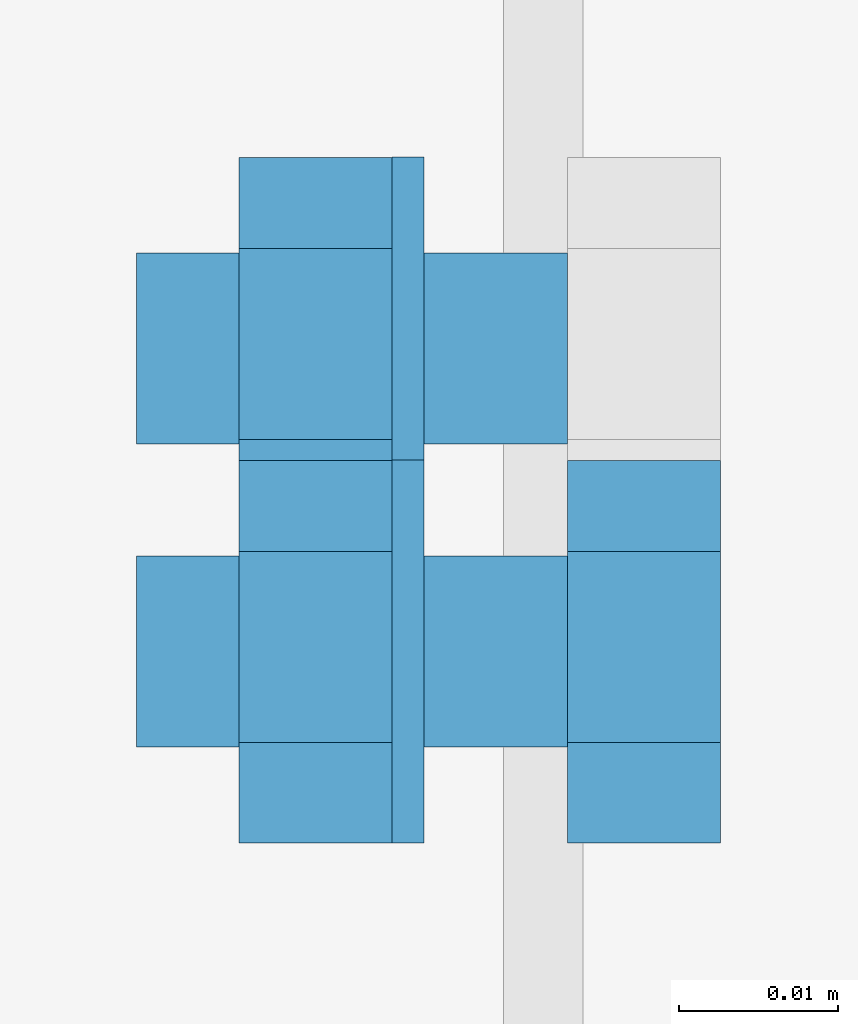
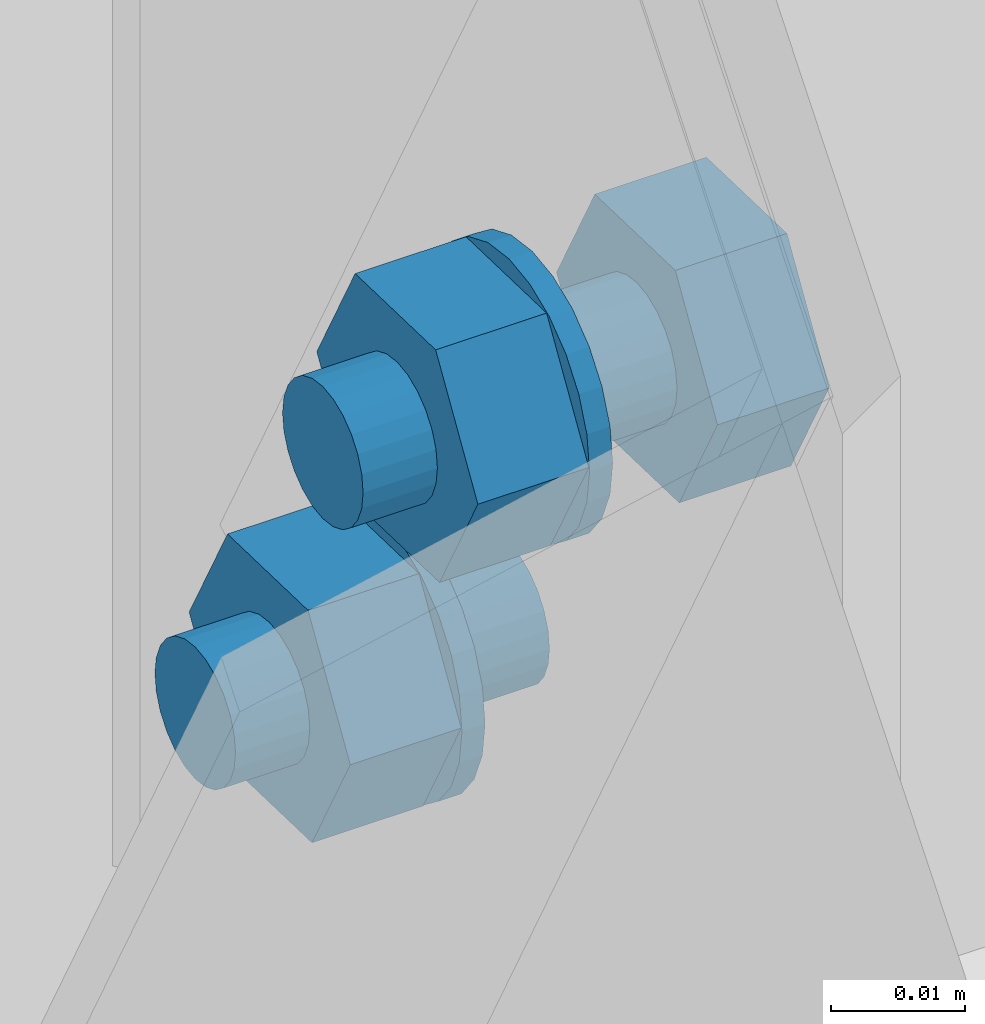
# One storey, part 28 of 29: 7 mechanical fasteners.
"""IFC4 building model written with IfcOpenShell, lengths in metres."""

from ifc_helpers import new_model, si_unit, frame, origin_with_axes, place, context, project, spatial, polyline, outline, extrude, type_object, element, save


model = new_model("IFC4")

# Units and contexts
model_context = context("Model", 3, precision=1e-05, world=origin_with_axes())
ifc_project = project(units=[si_unit("LENGTHUNIT", "METRE"), si_unit("AREAUNIT", "SQUARE_METRE"), si_unit("VOLUMEUNIT", "CUBIC_METRE"), si_unit("MASSUNIT", "GRAM", prefix="KILO"), si_unit("TIMEUNIT", "SECOND"), si_unit("PLANEANGLEUNIT", "RADIAN"), si_unit("SOLIDANGLEUNIT", "STERADIAN"), si_unit("THERMODYNAMICTEMPERATUREUNIT", "DEGREE_CELSIUS")], contexts=[model_context])

# Site, building, storey
placement_1 = place(None, origin_with_axes())
site = spatial("IfcSite", under=ifc_project, at=placement_1, Name="Italia", CompositionType="ELEMENT")
building = spatial("IfcBuilding", under=site, at=placement_1, Name="Capannone", CompositionType="ELEMENT")
storey = spatial("IfcBuildingStorey", under=building, at=placement_1, Name="Storey 0", CompositionType="ELEMENT", Elevation=0.0)

# Mechanical fasteners
mechanical_fastener_type_1 = type_object("IfcMechanicalFastenerType", Name="Collegamento 0012_0110", PredefinedType="BOLT")
placement_2 = place(placement_1, origin_with_axes())
mechanical_fastener_1_placement = place(placement_2, origin_with_axes())
element("IfcMechanicalFastener", 1, at=mechanical_fastener_1_placement, inside=storey, type_object=mechanical_fastener_type_1, Name="Collegamento 0012_0110", NominalDiameter=0.012, context=model_context, shape_type="SweptSolid", body=[
    extrude(outline(polyline([(0.0, 0.0), (-0.000204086, -0.00155292), (-0.000802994, -0.003), (-0.00175667, -0.00424264), (-0.00299931, -0.00519615), (-0.00444698, -0.00579555), (-0.00599957, -0.006), (-0.00755215, -0.00579555), (-0.00899982, -0.00519615), (-0.0102425, -0.00424264), (-0.0111961, -0.003), (-0.011795, -0.00155292), (-0.0119991, 0.0), (-0.011795, 0.00155291), (-0.0111961, 0.00300001), (-0.0102425, 0.00424264), (-0.00899982, 0.00519615), (-0.00755215, 0.00579555), (-0.00599957, 0.006), (-0.00444698, 0.00579555), (-0.00299931, 0.00519615), (-0.00175667, 0.00424264), (-0.000802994, 0.00300001), (-0.000204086, 0.00155291), (0.0, 0.0)])), frame((13.981, 14.959, 0.126354), z_axis=(1.0, 0.0, 0.0), x_axis=(0.0, 1.0, 0.0)), (0.0, 0.0, 1.0), 0.0269995),
])
mechanical_fastener_type_2 = type_object("IfcMechanicalFastenerType", Name="Collegamento 0012_0110", PredefinedType="BOLT")
mechanical_fastener_2_placement = place(placement_2, origin_with_axes())
element("IfcMechanicalFastener", 2, at=mechanical_fastener_2_placement, inside=storey, type_object=mechanical_fastener_type_2, Name="Collegamento 0012_0110", NominalDiameter=0.0119997, context=model_context, shape_type="SweptSolid", body=[
    extrude(outline(polyline([(0.0, 0.0), (0.00570583, -0.0105565), (0.0177011, -0.010893), (0.0239906, -0.000673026), (0.0182838, 0.00988345), (0.00628853, 0.01022), (0.0, 0.0)])), frame((13.9874, 14.941, 0.12669), z_axis=(1.0, 0.0, 0.0), x_axis=(0.0, 1.0, 0.0)), (0.0, 0.0, 1.0), 0.00959969),
])
mechanical_fastener_type_3 = type_object("IfcMechanicalFastenerType", Name="Collegamento 0012_0110", PredefinedType="BOLT")
mechanical_fastener_3_placement = place(placement_2, origin_with_axes())
element("IfcMechanicalFastener", 3, at=mechanical_fastener_3_placement, inside=storey, type_object=mechanical_fastener_type_3, Name="Collegamento 0012_0110", NominalDiameter=0.024, context=model_context, shape_type="SweptSolid", body=[
    extrude(outline(polyline([(0.0, 0.0), (-0.000409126, -0.00310583), (-0.00160789, -0.006), (-0.00351524, -0.00848528), (-0.00600052, -0.0103923), (-0.00889397, -0.0115911), (-0.0120001, -0.012), (-0.0151062, -0.0115911), (-0.0179996, -0.0103923), (-0.0204849, -0.00848528), (-0.0223923, -0.006), (-0.023591, -0.00310583), (-0.0240002, 0.0), (-0.023591, 0.00310583), (-0.0223923, 0.006), (-0.0204849, 0.00848529), (-0.0179996, 0.0103923), (-0.0151062, 0.0115911), (-0.0120001, 0.012), (-0.00889397, 0.0115911), (-0.00600052, 0.0103923), (-0.00351524, 0.00848527), (-0.00160789, 0.006), (-0.000409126, 0.00310582), (0.0, 0.0)])), frame((13.997, 14.965, 0.126354), z_axis=(1.0, 0.0, 0.0), x_axis=(0.0, 1.0, 0.0)), (0.0, 0.0, 1.0), 0.00199986),
])
mechanical_fastener_type_4 = type_object("IfcMechanicalFastenerType", Name="Collegamento 0012_0110", PredefinedType="BOLT")
mechanical_fastener_4_placement = place(placement_2, origin_with_axes())
element("IfcMechanicalFastener", 4, at=mechanical_fastener_4_placement, inside=storey, type_object=mechanical_fastener_type_4, Name="Collegamento 0012_0110", NominalDiameter=0.0119997, context=model_context, shape_type="SweptSolid", body=[
    extrude(outline(polyline([(0.0, 0.0), (0.00570679, -0.0105565), (0.0177021, -0.010893), (0.0239906, -0.000673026), (0.0182848, 0.00988345), (0.00628948, 0.0102199), (0.0, 0.0)])), frame((14.008, 14.922, 0.161879), z_axis=(1.0, 0.0, 0.0), x_axis=(0.0, 1.0, 0.0)), (0.0, 0.0, 1.0), 0.00960064),
])
mechanical_fastener_type_5 = type_object("IfcMechanicalFastenerType", Name="Collegamento 0012_0110", PredefinedType="BOLT")
mechanical_fastener_5_placement = place(placement_2, origin_with_axes())
element("IfcMechanicalFastener", 5, at=mechanical_fastener_5_placement, inside=storey, type_object=mechanical_fastener_type_5, Name="Collegamento 0012_0110", NominalDiameter=0.012, context=model_context, shape_type="SweptSolid", body=[
    extrude(outline(polyline([(0.0, 0.0), (-0.000204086, -0.00155291), (-0.000802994, -0.00300001), (-0.00175667, -0.00424264), (-0.00299931, -0.00519615), (-0.00444698, -0.00579555), (-0.00599957, -0.006), (-0.00755215, -0.00579555), (-0.00899982, -0.00519615), (-0.0102425, -0.00424264), (-0.0111961, -0.00300001), (-0.011795, -0.00155291), (-0.0119991, 0.0), (-0.011795, 0.00155291), (-0.0111961, 0.00300001), (-0.0102425, 0.00424264), (-0.00899982, 0.00519615), (-0.00755215, 0.00579555), (-0.00599957, 0.006), (-0.00444698, 0.00579555), (-0.00299931, 0.00519615), (-0.00175667, 0.00424264), (-0.000802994, 0.00300001), (-0.000204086, 0.00155291), (0.0, 0.0)])), frame((13.981, 14.94, 0.161542), z_axis=(1.0, 0.0, 0.0), x_axis=(0.0, 1.0, 0.0)), (0.0, 0.0, 1.0), 0.0269995),
])
mechanical_fastener_type_6 = type_object("IfcMechanicalFastenerType", Name="Collegamento 0012_0110", PredefinedType="BOLT")
mechanical_fastener_6_placement = place(placement_2, origin_with_axes())
element("IfcMechanicalFastener", 6, at=mechanical_fastener_6_placement, inside=storey, type_object=mechanical_fastener_type_6, Name="Collegamento 0012_0110", NominalDiameter=0.0119997, context=model_context, shape_type="SweptSolid", body=[
    extrude(outline(polyline([(0.0, 0.0), (0.00570679, -0.0105565), (0.0177021, -0.010893), (0.0239906, -0.000673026), (0.0182848, 0.00988345), (0.00628948, 0.0102199), (0.0, 0.0)])), frame((13.9874, 14.922, 0.161879), z_axis=(1.0, 0.0, 0.0), x_axis=(0.0, 1.0, 0.0)), (0.0, 0.0, 1.0), 0.00959969),
])
mechanical_fastener_type_7 = type_object("IfcMechanicalFastenerType", Name="Collegamento 0012_0110", PredefinedType="BOLT")
mechanical_fastener_7_placement = place(placement_2, origin_with_axes())
element("IfcMechanicalFastener", 7, at=mechanical_fastener_7_placement, inside=storey, type_object=mechanical_fastener_type_7, Name="Collegamento 0012_0110", NominalDiameter=0.024, context=model_context, shape_type="SweptSolid", body=[
    extrude(outline(polyline([(0.0, 0.0), (-0.000409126, -0.00310583), (-0.00160789, -0.006), (-0.00351524, -0.00848529), (-0.00600052, -0.0103923), (-0.00889397, -0.0115911), (-0.0120001, -0.012), (-0.0151062, -0.0115911), (-0.0179996, -0.0103923), (-0.0204849, -0.00848529), (-0.0223923, -0.006), (-0.023591, -0.00310583), (-0.0240002, 0.0), (-0.023591, 0.00310583), (-0.0223923, 0.006), (-0.0204849, 0.00848529), (-0.0179996, 0.0103923), (-0.0151062, 0.0115911), (-0.0120001, 0.012), (-0.00889397, 0.0115911), (-0.00600052, 0.0103923), (-0.00351524, 0.00848527), (-0.00160789, 0.006), (-0.000409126, 0.00310582), (0.0, 0.0)])), frame((13.997, 14.946, 0.161542), z_axis=(1.0, 0.0, 0.0), x_axis=(0.0, 1.0, 0.0)), (0.0, 0.0, 1.0), 0.00199986),
])

save(model, "model.ifc")
